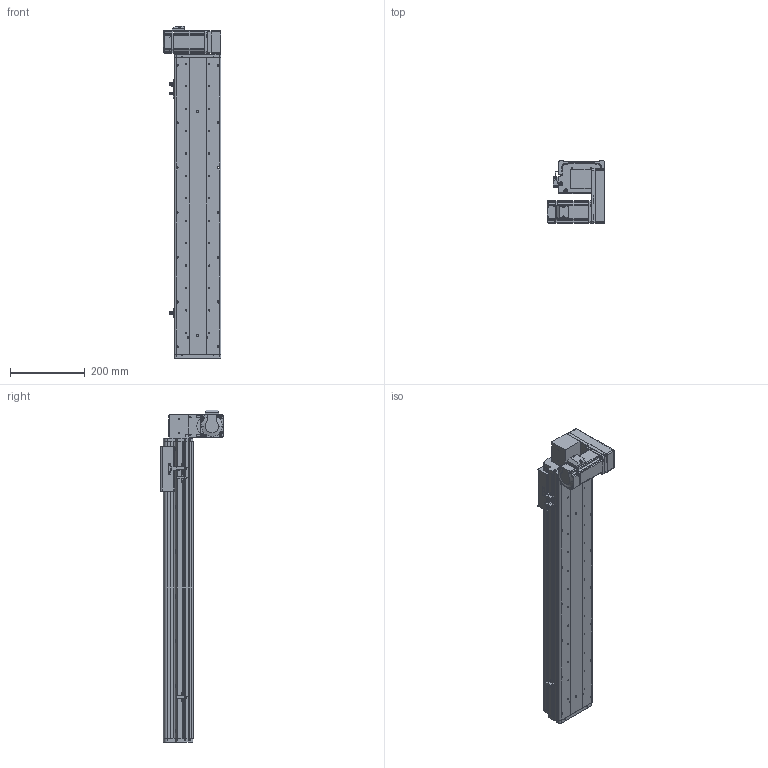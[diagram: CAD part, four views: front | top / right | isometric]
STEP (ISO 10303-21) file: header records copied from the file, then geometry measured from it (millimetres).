
FILE_DESCRIPTION (( 'STEP AP214' ), '1' );
FILE_NAME ('KSD125B-S600-MLD-CM.STEP', '2017-10-21T02:20:04', ( '微软用户' ), ( '微软中国' ), 'SwSTEP 2.0', 'SolidWorks 2014', '' );
FILE_SCHEMA (( 'AUTOMOTIVE_DESIGN' ));
Length unit declared in the file: millimetre
Products named in the file (17): 100宽马达安装板同步带左; KSD125模组600行程同步带-防尘盖; 125模组600行程同步带-底板; MHMD042G1CA_2_03; KSD125模组同步带-防撞垫2; 覜茼え68遵圉猾敕; U倰嫖萇假蚾璃; U倰嫖萇EEㄜSX672; KSD125模组同步带-防撞垫1; 前端板-125宽模组同步带; 125模组同步带-尾端板1; KSD125模组同步带-滑动座1; KSD125B-S600-MLD-CM; 悵誘欶奻狟殏; 100宽马达安装板连板上下折丝杆同步带; HTPA30S3M150_A_H6_a佪裝蚚; HTPA30S3M150_A_H6_a萇儂蚚
Assembly tree (20 placements, depth 2):
  KSD125B-S600-MLD-CM
    KSD125模组同步带-滑动座1
    125模组同步带-尾端板1
    前端板-125宽模组同步带
    KSD125模组同步带-防撞垫1
    U倰嫖萇EEㄜSX672  x3
    U倰嫖萇假蚾璃  x3
    覜茼え68遵圉猾敕
    KSD125模组同步带-防撞垫2
    MHMD042G1CA_2_03
    125模组600行程同步带-底板
    KSD125模组600行程同步带-防尘盖
    100宽马达安装板同步带左
    HTPA30S3M150_A_H6_a萇儂蚚
    HTPA30S3M150_A_H6_a佪裝蚚
    100宽马达安装板连板上下折丝杆同步带
    悵誘欶奻狟殏
Bounding box: 155 x 166.5 x 889 mm (x, y, z)
Volume: 2858026.2 mm3; surface area: 984064.2 mm2
Topology: 19 solids, 22 shells, 2257 faces, 6535 edges, 4318 vertices
Faces by surface type: cylinder 1408, plane 722, cone 105, bspline 22
Entity records: 80093 total; most frequent: CARTESIAN_POINT 15825, DIRECTION 12456, ORIENTED_EDGE 11590, EDGE_CURVE 5873, AXIS2_PLACEMENT_3D 4809, VERTEX_POINT 3910, LINE 2838, VECTOR 2838
